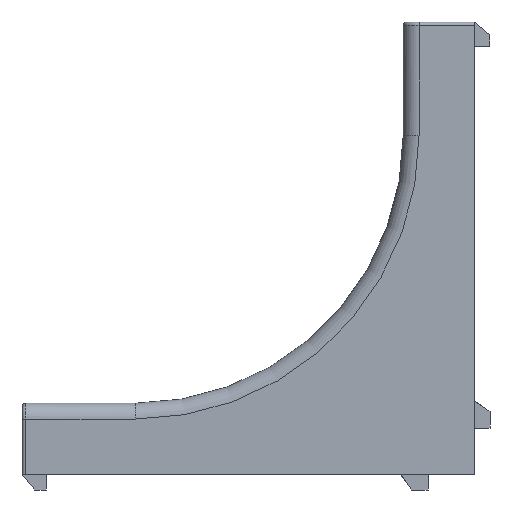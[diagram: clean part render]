
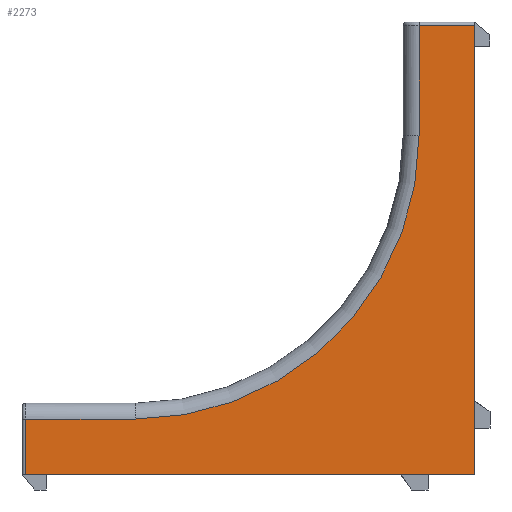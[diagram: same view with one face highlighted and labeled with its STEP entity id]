
A CAD part, left-side view. The second image highlights one B-rep face of the part: STEP entity #2273.
In plain terms, the highlighted planar face has unit normal (-1, 0, 0).
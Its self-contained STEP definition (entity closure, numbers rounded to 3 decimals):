
#539 = VECTOR ( 'NONE', #799, 1000. ) ;
#554 = LINE ( 'NONE', #783, #594 ) ;
#594 = VECTOR ( 'NONE', #782, 1000. ) ;
#600 = LINE ( 'NONE', #827, #539 ) ;
#662 = DIRECTION ( 'NONE',  ( 0., 0., 1. ) ) ;
#663 = DIRECTION ( 'NONE',  ( 1., 0., 0. ) ) ;
#665 = CARTESIAN_POINT ( 'NONE',  ( -27.5, 45., 45. ) ) ;
#782 = DIRECTION ( 'NONE',  ( 0., 1., 0. ) ) ;
#783 = CARTESIAN_POINT ( 'NONE',  ( -27.5, 0., 7.4 ) ) ;
#799 = DIRECTION ( 'NONE',  ( 0., 0., -1. ) ) ;
#827 = CARTESIAN_POINT ( 'NONE',  ( -27.5, 7.4, 0. ) ) ;
#994 = CARTESIAN_POINT ( 'NONE',  ( -27.5, 59.5, 7.4 ) ) ;
#1032 = CARTESIAN_POINT ( 'NONE',  ( -27.5, 7.4, 59.5 ) ) ;
#1106 = CARTESIAN_POINT ( 'NONE',  ( -27.5, 0., 59.5 ) ) ;
#1360 = AXIS2_PLACEMENT_3D ( 'NONE', #4560, #4783, #4766 ) ;
#1546 = FACE_OUTER_BOUND ( 'NONE', #3007, .T. ) ;
#1701 = EDGE_CURVE ( 'NONE', #2661, #2849, #4393, .T. ) ;
#1733 = EDGE_CURVE ( 'NONE', #2849, #2975, #4335, .T. ) ;
#1745 = EDGE_CURVE ( 'NONE', #2661, #2729, #4313, .T. ) ;
#1746 = EDGE_CURVE ( 'NONE', #2763, #2975, #4337, .T. ) ;
#1760 = CARTESIAN_POINT ( 'NONE',  ( -27.5, 0., 0. ) ) ;
#1841 = CARTESIAN_POINT ( 'NONE',  ( -27.5, 7.4, 45. ) ) ;
#1945 = CARTESIAN_POINT ( 'NONE',  ( -27.5, 45., 7.4 ) ) ;
#1956 = CARTESIAN_POINT ( 'NONE',  ( -27.5, 59.5, 0. ) ) ;
#2023 = AXIS2_PLACEMENT_3D ( 'NONE', #665, #663, #662 ) ;
#2273 = ADVANCED_FACE ( 'NONE', ( #1546 ), #4563, .T. ) ;
#2661 = VERTEX_POINT ( 'NONE', #1106 ) ;
#2729 = VERTEX_POINT ( 'NONE', #1032 ) ;
#2763 = VERTEX_POINT ( 'NONE', #994 ) ;
#2796 = VERTEX_POINT ( 'NONE', #1945 ) ;
#2832 = VERTEX_POINT ( 'NONE', #1841 ) ;
#2849 = VERTEX_POINT ( 'NONE', #1760 ) ;
#2975 = VERTEX_POINT ( 'NONE', #1956 ) ;
#3007 = EDGE_LOOP ( 'NONE', ( #3436, #3437, #3438, #3439, #3440, #3441, #3442 ) ) ;
#3436 = ORIENTED_EDGE ( 'NONE', *, *, #1701, .F. ) ;
#3437 = ORIENTED_EDGE ( 'NONE', *, *, #1745, .T. ) ;
#3438 = ORIENTED_EDGE ( 'NONE', *, *, #3542, .T. ) ;
#3439 = ORIENTED_EDGE ( 'NONE', *, *, #3580, .T. ) ;
#3440 = ORIENTED_EDGE ( 'NONE', *, *, #3549, .T. ) ;
#3441 = ORIENTED_EDGE ( 'NONE', *, *, #1746, .T. ) ;
#3442 = ORIENTED_EDGE ( 'NONE', *, *, #1733, .F. ) ;
#3542 = EDGE_CURVE ( 'NONE', #2729, #2832, #600, .T. ) ;
#3549 = EDGE_CURVE ( 'NONE', #2796, #2763, #554, .T. ) ;
#3580 = EDGE_CURVE ( 'NONE', #2832, #2796, #4533, .T. ) ;
#3868 = DIRECTION ( 'NONE',  ( 0., 0., -1. ) ) ;
#3870 = DIRECTION ( 'NONE',  ( 0., 1., 0. ) ) ;
#3873 = CARTESIAN_POINT ( 'NONE',  ( -27.5, 7.4, 59.5 ) ) ;
#3887 = CARTESIAN_POINT ( 'NONE',  ( -27.5, 59.5, 0. ) ) ;
#3916 = DIRECTION ( 'NONE',  ( 0., 1., 0. ) ) ;
#3919 = CARTESIAN_POINT ( 'NONE',  ( -27.5, 60., 0. ) ) ;
#4035 = DIRECTION ( 'NONE',  ( 0., 0., -1. ) ) ;
#4036 = CARTESIAN_POINT ( 'NONE',  ( -27.5, 0., 0. ) ) ;
#4308 = VECTOR ( 'NONE', #3868, 1000. ) ;
#4310 = VECTOR ( 'NONE', #3870, 1000. ) ;
#4313 = LINE ( 'NONE', #3873, #4310 ) ;
#4332 = VECTOR ( 'NONE', #3916, 1000. ) ;
#4335 = LINE ( 'NONE', #3919, #4332 ) ;
#4337 = LINE ( 'NONE', #3887, #4308 ) ;
#4391 = VECTOR ( 'NONE', #4035, 1000. ) ;
#4393 = LINE ( 'NONE', #4036, #4391 ) ;
#4533 = CIRCLE ( 'NONE', #2023, 37.6 ) ;
#4560 = CARTESIAN_POINT ( 'NONE',  ( -27.5, 0., 0. ) ) ;
#4563 = PLANE ( 'NONE',  #1360 ) ;
#4766 = DIRECTION ( 'NONE',  ( 0., 0., 1. ) ) ;
#4783 = DIRECTION ( 'NONE',  ( -1., 0., 0. ) ) ;
